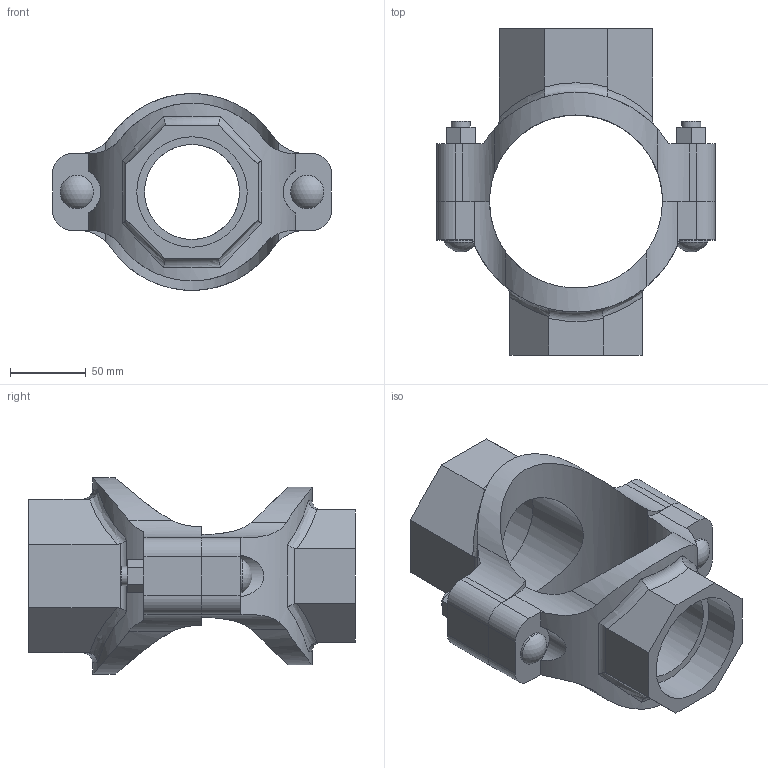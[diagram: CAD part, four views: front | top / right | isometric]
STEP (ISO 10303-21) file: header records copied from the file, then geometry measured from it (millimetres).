
FILE_DESCRIPTION(/* description */ ('VIC MECH-T BRANCH OUTLET CROSS STYLE 920N (THD)','CAx-IF Rec.Pracs.---Representation and Presentation of Product Manufacturing Information (PMI)---4.0---2014-10-13'),/* implementation_level */ '2;1');
FILE_NAME(/* name */ 'C:\Users\Vjadhav\AppData\Roaming\Autodesk\ApplicationPlugins\Back Up\Victaulic_IPS_Mechanical-Cross Outlet_Style 920N (FPT)\Victaulic_IPS_Mechanical-Cross Outlet_04.0x03.0x02.5 (100x80x65).stp',/* time_stamp */ '2020-08-06T18:58:46+05:00',/* author */ ('Vjadhav'),/* organization */ ('Victaulic'),/* preprocessor_version */ 'ST-DEVELOPER v17.2',/* originating_system */ 'Autodesk Inventor 2019',/* authorisation */ '');
FILE_SCHEMA (('AP242_MANAGED_MODEL_BASED_3D_ENGINEERING_MIM_LF { 1 0 10303 442 1 1 4 }'));
Length unit declared in the file: inch
Products named in the file (3): 920NT-04.0x03.0x02.5; 920T-04.0x03.0; 920T-04.0x02.5
Assembly tree (2 placements, depth 2):
  920NT-04.0x03.0x02.5
    920T-04.0x03.0
    920T-04.0x02.5
Bounding box: 184.15 x 215.9 x 130.04 mm (x, y, z)
Volume: 781496.2 mm3; surface area: 152813.2 mm2
Topology: 2 solids, 2 shells, 130 faces, 344 edges, 232 vertices
Faces by surface type: plane 68, cylinder 48, bspline 8, torus 4, sphere 2
Full cylindrical faces by diameter (mm): 12.7 x4, 21.982 x2, 62.738 x1, 73.025 x1, 77.787 x1, 88.9 x1
Entity records: 5272 total; most frequent: CARTESIAN_POINT 1813, ORIENTED_EDGE 688, DIRECTION 638, EDGE_CURVE 344, VERTEX_POINT 232, AXIS2_PLACEMENT_3D 227, LINE 184, VECTOR 184
